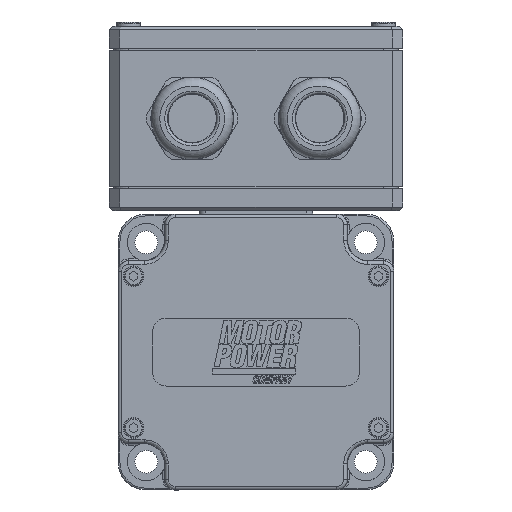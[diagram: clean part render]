
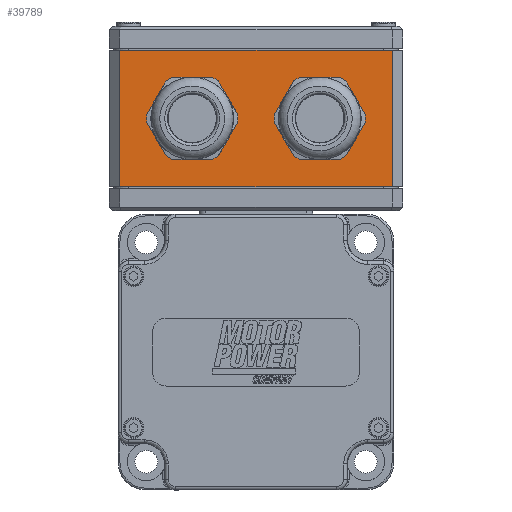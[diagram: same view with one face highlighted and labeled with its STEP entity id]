
A CAD part, front view. The second image highlights one B-rep face of the part: STEP entity #39789.
In plain terms, the highlighted planar face has unit normal (0, -1, 0) as drawn and (1, 0, 0) by its records, which use the part's own axes.
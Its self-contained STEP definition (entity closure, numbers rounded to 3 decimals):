
#2375=LINE('',#76771,#5637);
#2376=LINE('',#76774,#5638);
#2377=LINE('',#76776,#5639);
#2378=LINE('',#76778,#5640);
#5637=VECTOR('',#60044,1000.);
#5638=VECTOR('',#60045,1000.);
#5639=VECTOR('',#60046,1000.);
#5640=VECTOR('',#60047,1000.);
#8618=PLANE('',#53883);
#13906=ORIENTED_EDGE('',*,*,#23467,.T.);
#13907=ORIENTED_EDGE('',*,*,#23468,.T.);
#13908=ORIENTED_EDGE('',*,*,#23469,.T.);
#13909=ORIENTED_EDGE('',*,*,#23470,.T.);
#13910=ORIENTED_EDGE('',*,*,#23471,.F.);
#13911=ORIENTED_EDGE('',*,*,#23472,.T.);
#23467=EDGE_CURVE('',#28580,#28580,#31466,.F.);
#23468=EDGE_CURVE('',#28581,#28581,#31467,.F.);
#23469=EDGE_CURVE('',#28582,#28583,#2375,.T.);
#23470=EDGE_CURVE('',#28583,#28584,#2376,.T.);
#23471=EDGE_CURVE('',#28585,#28584,#2377,.T.);
#23472=EDGE_CURVE('',#28585,#28582,#2378,.T.);
#28580=VERTEX_POINT('',#76768);
#28581=VERTEX_POINT('',#76770);
#28582=VERTEX_POINT('',#76772);
#28583=VERTEX_POINT('',#76773);
#28584=VERTEX_POINT('',#76775);
#28585=VERTEX_POINT('',#76777);
#31466=CIRCLE('',#53884,10.625);
#31467=CIRCLE('',#53885,10.625);
#33670=EDGE_LOOP('',(#13906));
#33671=EDGE_LOOP('',(#13907));
#33672=EDGE_LOOP('',(#13908,#13909,#13910,#13911));
#36761=FACE_BOUND('',#33670,.T.);
#36762=FACE_BOUND('',#33671,.T.);
#36763=FACE_BOUND('',#33672,.T.);
#39789=ADVANCED_FACE('',(#36761,#36762,#36763),#8618,.F.);
#53883=AXIS2_PLACEMENT_3D('',#76766,#60038,#60039);
#53884=AXIS2_PLACEMENT_3D('',#76767,#60040,#60041);
#53885=AXIS2_PLACEMENT_3D('',#76769,#60042,#60043);
#60038=DIRECTION('',(-1.,0.,0.));
#60039=DIRECTION('',(0.,0.,1.));
#60040=DIRECTION('',(1.,0.,0.));
#60041=DIRECTION('',(0.,0.,-1.));
#60042=DIRECTION('',(1.,0.,0.));
#60043=DIRECTION('',(0.,0.,-1.));
#60044=DIRECTION('',(0.,1.,0.));
#60045=DIRECTION('',(0.,0.,1.));
#60046=DIRECTION('',(0.,1.,0.));
#60047=DIRECTION('',(0.,0.,-1.));
#76766=CARTESIAN_POINT('',(42.5,-42.5,39.5));
#76767=CARTESIAN_POINT('',(42.5,18.5,19.75));
#76768=CARTESIAN_POINT('',(42.5,18.5,9.125));
#76769=CARTESIAN_POINT('',(42.5,-18.5,19.75));
#76770=CARTESIAN_POINT('',(42.5,-18.5,9.125));
#76771=CARTESIAN_POINT('',(42.5,-42.5,0.));
#76772=CARTESIAN_POINT('',(42.5,-39.5,0.));
#76773=CARTESIAN_POINT('',(42.5,39.5,0.));
#76774=CARTESIAN_POINT('',(42.5,39.5,39.5));
#76775=CARTESIAN_POINT('',(42.5,39.5,39.5));
#76776=CARTESIAN_POINT('',(42.5,-42.5,39.5));
#76777=CARTESIAN_POINT('',(42.5,-39.5,39.5));
#76778=CARTESIAN_POINT('',(42.5,-39.5,39.5));
